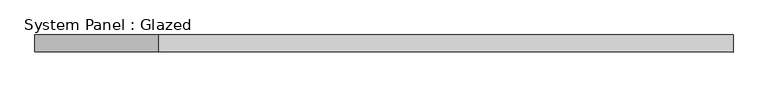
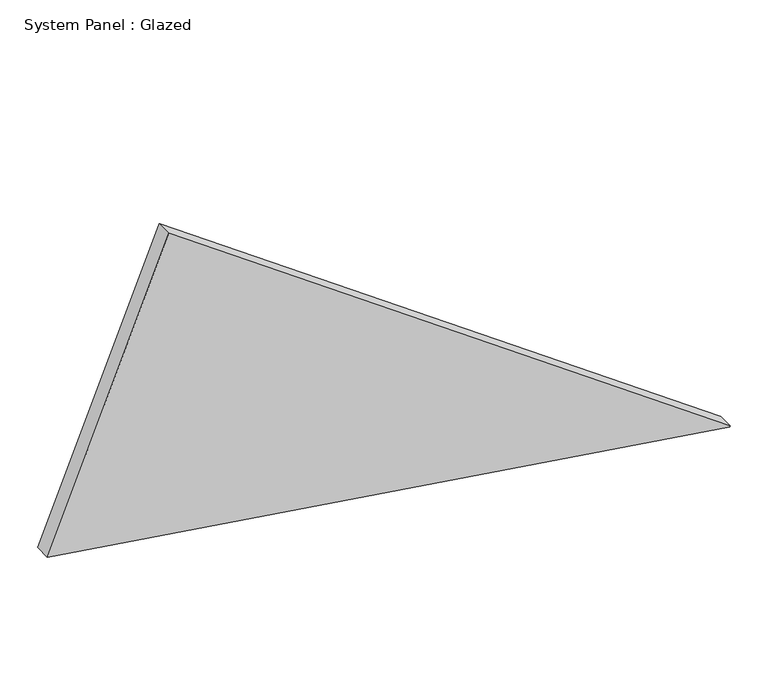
"""IFC4 building model written with IfcOpenShell, lengths in millimetres: plate geometry, System Panel : Glazed."""

from ifc_helpers import new_model, si_unit, frame, origin, place, context, project, spatial, polyline, outline, extrude, source, transform, mapped, element, save


def system_panel_glazed_6040db8a(model_context):
    return source(origin(), model_context, "Body", "SweptSolid", [
        extrude(outline(polyline([(0.0, 520.1959543), (1.1103717, 520.6440207), (612.3686015, -335.8243223), (154.3592966, -520.6440207), (0.0, 520.1959543)])), frame((0.0, -44.45, 0.0), z_axis=(0.0, 1.0, 0.0), x_axis=(0.0, 0.0, 1.0)), (0.0, 0.0, 1.0), 25.4),
    ])


if __name__ == "__main__":
    model = new_model("IFC4")
    model_context = context("Model", 3, world=origin())
    ifc_project = project(units=[si_unit("LENGTHUNIT", "METRE", prefix="MILLI")], contexts=[model_context])
    site = spatial("IfcSite", under=ifc_project)
    building = spatial("IfcBuilding", under=site)
    placement = place(None, origin())
    system_panel_glazed_shape = system_panel_glazed_6040db8a(model_context)
    element("IfcPlate", 1, ObjectType="System Panel : Glazed", at=placement, inside=building, context=model_context, shape_type="MappedRepresentation", body=[
        mapped(system_panel_glazed_shape, transform((0.0, 0.0, 0.0), x_axis=(1.0, 0.0, 0.0), y_axis=(0.0, 1.0, 0.0), z_axis=(0.0, 0.0, 1.0))),
    ])
    save(model, "model.ifc")
